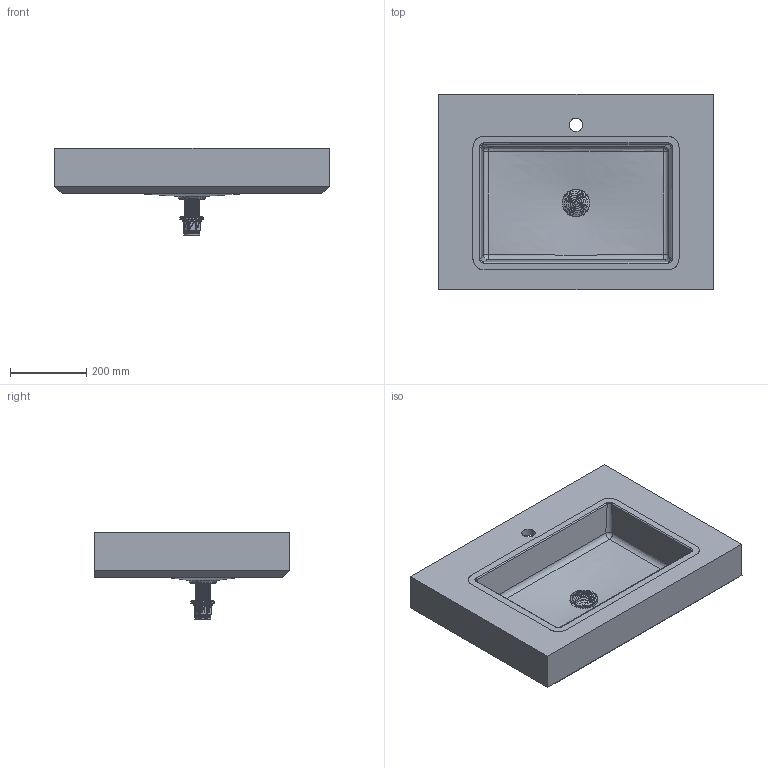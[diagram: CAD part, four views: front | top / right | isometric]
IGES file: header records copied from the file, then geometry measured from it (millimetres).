
Start section: Data from Parasolid IGES Translator 19.0.9, Copyright(c) 2006 Siemens PL M Software. All Rights Reserved.
Global section: file name: noorth-top-H 11,9 D 51,3 W 72_6542.igs; native system: By Siemens PLM Incorporated; preprocessor: XPlus GENERIC/IGES 19.0.9; author: Noname; organization: Noname; date: 20200603.085322; units: metre
Bounding box: 720 x 512 x 229.51 mm (x, y, z)
Volume: 10364089 mm3; surface area: 1500451.3 mm2
Topology: 2 solids, 2 shells, 11705 faces, 35056 edges, 34968 vertices
Faces by surface type: extrusion 11618, bspline 41, plane 31, cylinder 14, cone 1
Full cylindrical faces by diameter (mm): 34.9 x1, 45 x1
